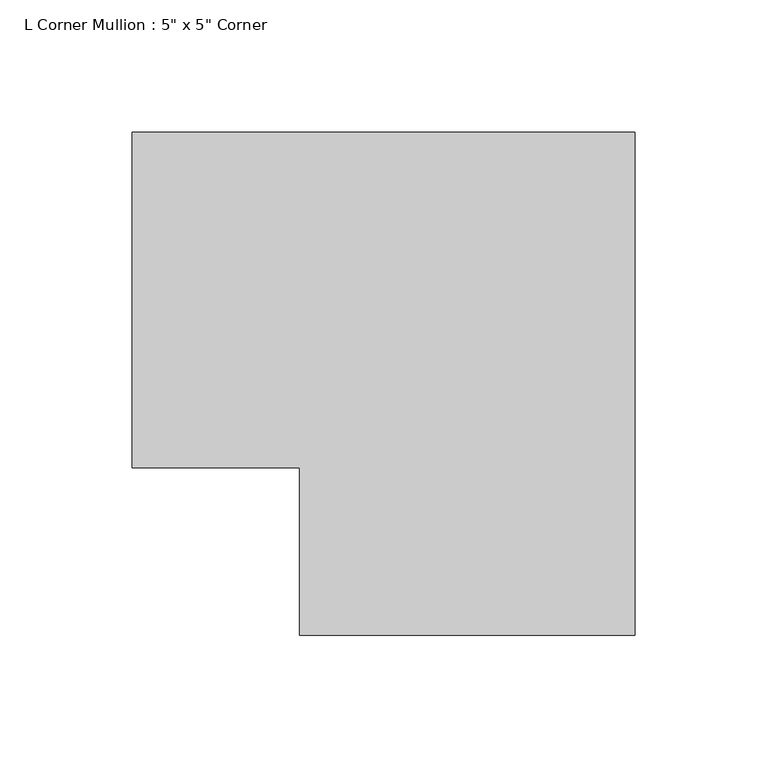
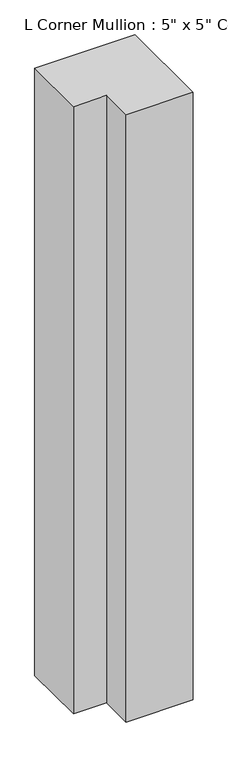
"""IFC4 building model written with IfcOpenShell, lengths in millimetres: member geometry."""

from ifc_helpers import new_model, si_unit, frame, origin, place, context, project, spatial, polyline, outline, extrude, source, transform, mapped, element, save


def member_6230916f(model_context):
    return source(origin(), model_context, "Body", "SweptSolid", [
        extrude(outline(polyline([(-63.5, -127.0), (-63.5, -63.5), (-127.0, -63.5), (-127.0, 63.5), (63.5, 63.5), (63.5, -127.0), (-63.5, -127.0)])), frame((0.0, 0.0, -1219.2), z_axis=(0.0, 0.0, 1.0), x_axis=(1.0, 0.0, 0.0)), (0.0, 0.0, 1.0), 1219.2),
    ])


if __name__ == "__main__":
    model = new_model("IFC4")
    model_context = context("Model", 3, world=origin())
    ifc_project = project(units=[si_unit("LENGTHUNIT", "METRE", prefix="MILLI")], contexts=[model_context])
    site = spatial("IfcSite", under=ifc_project)
    building = spatial("IfcBuilding", under=site)
    placement = place(None, origin())
    member_shape = member_6230916f(model_context)
    element("IfcMember", 1, ObjectType="L Corner Mullion : 5\" x 5\" Corner", at=placement, inside=building, context=model_context, shape_type="MappedRepresentation", body=[
        mapped(member_shape, transform((0.0, 0.0, 0.0), x_axis=(1.0, 0.0, 0.0), y_axis=(0.0, 1.0, 0.0), z_axis=(0.0, 0.0, 1.0))),
    ])
    save(model, "model.ifc")
